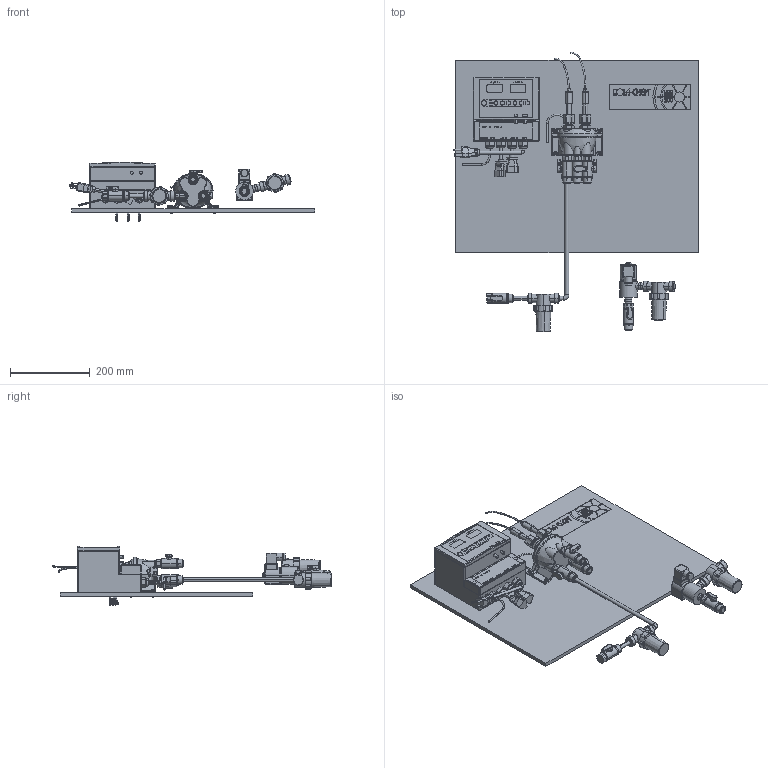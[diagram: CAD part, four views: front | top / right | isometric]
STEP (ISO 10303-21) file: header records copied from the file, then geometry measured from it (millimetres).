
FILE_DESCRIPTION (( 'STEP AP214' ), '1' );
FILE_NAME ('554221 defeature Style E 1-14-2020.STEP', '2020-01-14T22:44:15', ( '' ), ( '' ), 'SwSTEP 2.0', 'SolidWorks 2019', '' );
FILE_SCHEMA (( 'AUTOMOTIVE_DESIGN' ));
Length unit declared in the file: inch
Products named in the file (1): 554221 defeature Style E 1-14-2020
Bounding box: 615.15 x 702.09 x 149.48 mm (x, y, z)
Volume: 6291966.2 mm3; surface area: 928321.4 mm2
Topology: 2 solids, 2 shells, 3775 faces, 9525 edges, 5926 vertices
Faces by surface type: plane 1842, cylinder 914, bspline 533, torus 297, cone 155, sphere 34
Entity records: 205220 total; most frequent: CARTESIAN_POINT 91777, ORIENTED_EDGE 18894, DIRECTION 16534, EDGE_CURVE 9447, VERTEX_POINT 5926, AXIS2_PLACEMENT_3D 5617, LINE 5300, VECTOR 5300
